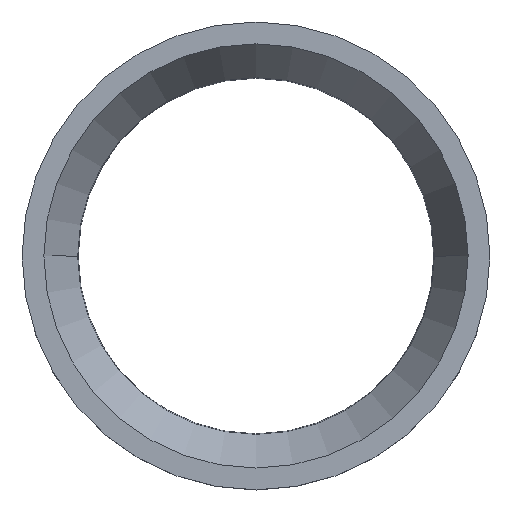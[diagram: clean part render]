
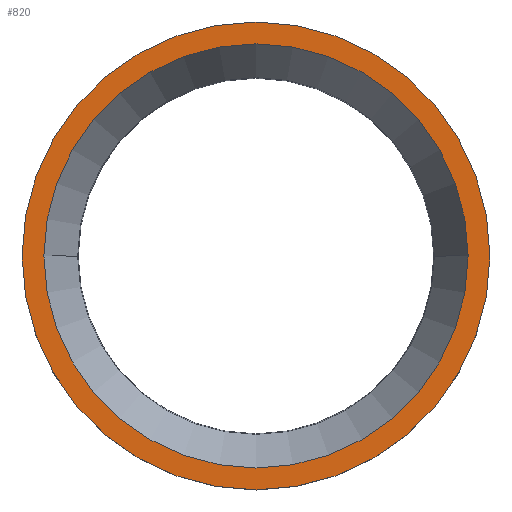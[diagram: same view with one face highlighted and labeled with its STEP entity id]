
A CAD part, top view. The second image highlights one B-rep face of the part: STEP entity #820.
In plain terms, the highlighted planar face has unit normal (0, 0, 1).
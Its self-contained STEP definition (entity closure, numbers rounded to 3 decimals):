
#125=CARTESIAN_POINT('',(0.,0.,25.));
#126=DIRECTION('',(0.,0.,1.));
#127=DIRECTION('',(1.,0.,0.));
#128=AXIS2_PLACEMENT_3D('',#125,#126,#127);
#130=CARTESIAN_POINT('',(0.,0.,25.));
#131=DIRECTION('',(0.,0.,1.));
#132=DIRECTION('',(-1.,0.,0.));
#133=AXIS2_PLACEMENT_3D('',#130,#131,#132);
#135=CARTESIAN_POINT('',(0.,0.,
25.));
#136=DIRECTION('',(0.,0.,-1.));
#137=DIRECTION('',(1.,0.,0.));
#138=AXIS2_PLACEMENT_3D('',#135,#136,#137);
#140=CARTESIAN_POINT('',(0.,0.,
25.));
#141=DIRECTION('',(0.,0.,-1.));
#142=DIRECTION('',(-1.,0.,0.));
#143=AXIS2_PLACEMENT_3D('',#140,#141,#142);
#515=CARTESIAN_POINT('',(75.,0.,25.));
#516=CARTESIAN_POINT('',(-75.,0.,25.));
#517=VERTEX_POINT('',#515);
#518=VERTEX_POINT('',#516);
#519=CARTESIAN_POINT('',(68.,0.,
25.));
#520=CARTESIAN_POINT('',(-68.,0.,
25.));
#521=VERTEX_POINT('',#519);
#522=VERTEX_POINT('',#520);
#805=CARTESIAN_POINT('',(0.,0.,25.));
#806=DIRECTION('',(0.,0.,1.));
#807=DIRECTION('',(1.,0.,0.));
#808=AXIS2_PLACEMENT_3D('',#805,#806,#807);
#809=PLANE('',#808);
#811=ORIENTED_EDGE('',*,*,#810,.F.);
#813=ORIENTED_EDGE('',*,*,#812,.F.);
#814=EDGE_LOOP('',(#811,#813));
#815=FACE_OUTER_BOUND('',#814,.F.);
#816=ORIENTED_EDGE('',*,*,#785,.F.);
#817=ORIENTED_EDGE('',*,*,#799,.F.);
#818=EDGE_LOOP('',(#816,#817));
#819=FACE_BOUND('',#818,.F.);
#129=CIRCLE('',#128,75.);
#134=CIRCLE('',#133,75.);
#139=CIRCLE('',#138,68.);
#144=CIRCLE('',#143,68.);
#785=EDGE_CURVE('',#521,#522,#139,.T.);
#799=EDGE_CURVE('',#522,#521,#144,.T.);
#810=EDGE_CURVE('',#517,#518,#129,.T.);
#812=EDGE_CURVE('',#518,#517,#134,.T.);
#820=ADVANCED_FACE('',(#815,#819),#809,.T.);
